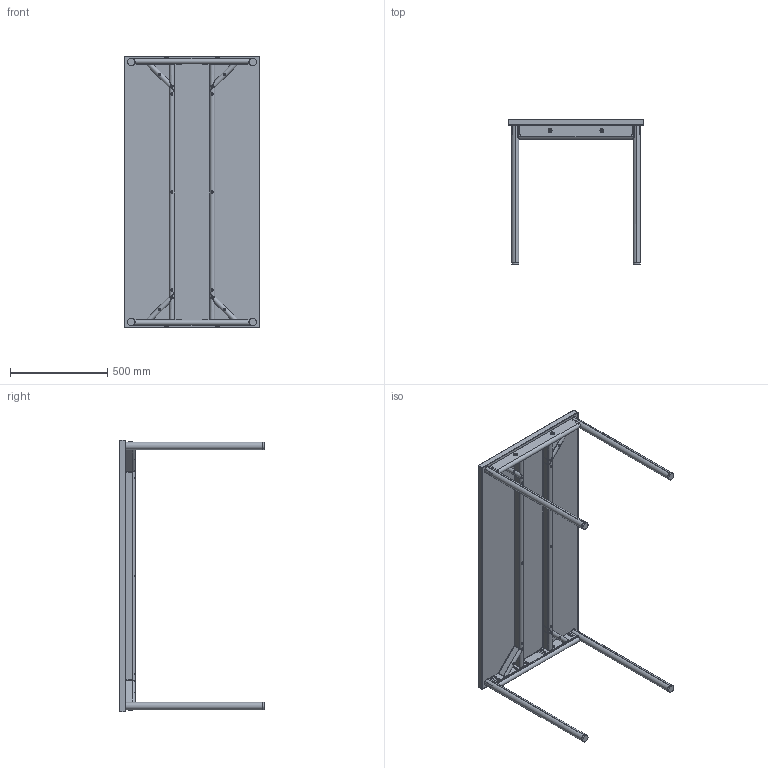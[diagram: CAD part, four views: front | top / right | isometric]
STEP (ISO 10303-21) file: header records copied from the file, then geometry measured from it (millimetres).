
FILE_DESCRIPTION (( 'STEP AP214' ), '1' );
FILE_NAME ('Co-Table 1400x700 for linedrawing.STEP', '2023-10-04T09:46:51', ( '' ), ( '' ), 'SwSTEP 2.0', 'SolidWorks 2022', '' );
FILE_SCHEMA (( 'AUTOMOTIVE_DESIGN' ));
Length unit declared in the file: millimetre
Products named in the file (13): Co-Table_Leg_profile up to edge; knurled thin thumb screw_din_DIN 653 -- M5 x 20 --- 14.6NN; Co-Table_Tabletop 1400x700x30mm; Co-Table 1400x700 for linedrawing; Co-Table_foot screw; Co-Table_Leg_1400x700mm; socket head cap screw_iso_ISO 4762 M6 x 16 - 16N; Co-Table_steel_profile50x20x2,5mm for 1400x700; Co-Table_Support_semioval 1400x700mm; Co-Table_Support_semioval 1400x700mm right; socket countersunk head screw_din_DIN 7991 - M6 x 12 --- 5.7N; Co-Table_SW_Edge 1400x700mm; Edge band 1400x700x3mm
Assembly tree (53 placements, depth 3):
  Co-Table 1400x700 for linedrawing
    Co-Table_SW_Edge 1400x700mm  x2
    Co-Table_Tabletop 1400x700x30mm
    Edge band 1400x700x3mm
    Co-Table_Leg_1400x700mm  x2
      Co-Table_Leg_profile up to edge
      Co-Table_steel_profile50x20x2,5mm for 1400x700
    Co-Table_Support_semioval 1400x700mm
    Co-Table_Support_semioval 1400x700mm right
    socket countersunk head screw_din_DIN 7991 - M6 x 12 --- 5.7N  x24
    socket head cap screw_iso_ISO 4762 M6 x 16 - 16N  x10
    knurled thin thumb screw_din_DIN 653 -- M5 x 20 --- 14.6NN  x4
    Co-Table_foot screw  x4
Bounding box: 700 x 746 x 1400 mm (x, y, z)
Volume: 32435198.8 mm3; surface area: 4527649.2 mm2
Topology: 54 solids, 62 shells, 1710 faces, 3956 edges, 2328 vertices
Faces by surface type: plane 776, cylinder 514, cone 284, torus 112, bspline 16, sphere 8
Entity records: 23898 total; most frequent: CARTESIAN_POINT 7898, DIRECTION 3246, ORIENTED_EDGE 3100, EDGE_CURVE 1550, AXIS2_PLACEMENT_3D 1170, VERTEX_POINT 962, VECTOR 906, LINE 906
